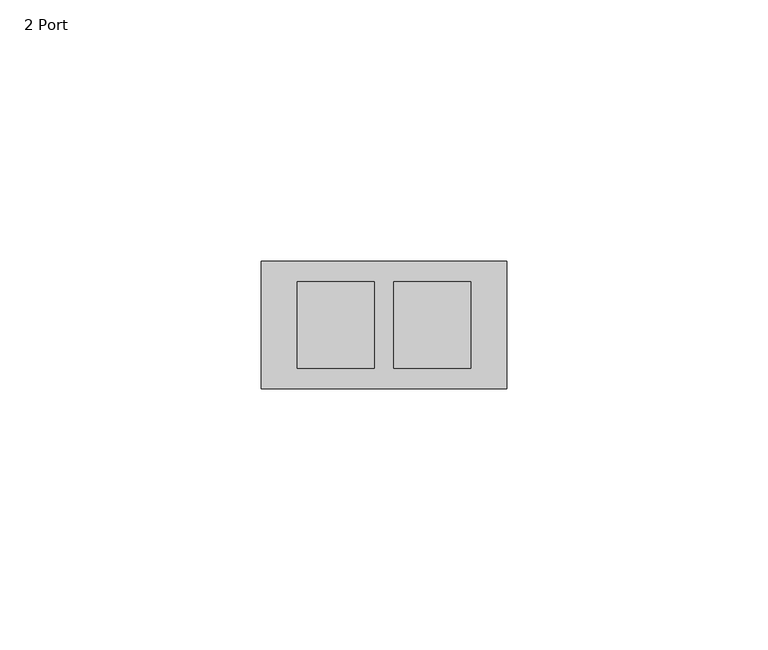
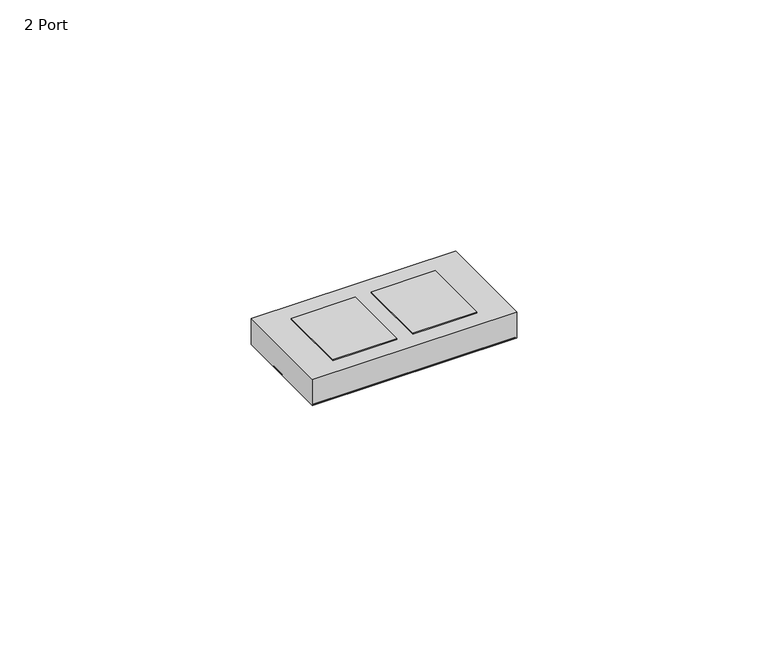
"""IFC4 building model written with IfcOpenShell, lengths in millimetres: electric appliance geometry, Data_Device-Work_Area-Leviton-MOS-Adapter-QuickPort : 2 Port."""

from ifc_helpers import new_model, si_unit, frame, origin, place, context, project, spatial, polyline, outline, extrude, source, transform, mapped, element, save


def electric_appliance_2_port_a5e45990(model_context):
    return source(origin(), model_context, "Body", "SweptSolid", [
        extrude(outline(polyline([(-24.8539, 16.4465), (-24.8539, -0.0635), (-39.5859, -0.0635), (-39.5859, 16.4465), (-24.8539, 16.4465)])), frame((0.0, 0.0, -6.096), z_axis=(0.0, 0.0, 1.0), x_axis=(1.0, 0.0, 0.0)), (0.0, 0.0, 1.0), 6.35),
        extrude(outline(polyline([(-6.4643, 16.4465), (-6.4643, -0.0635), (-21.1963, -0.0635), (-21.1963, 16.4465), (-6.4643, 16.4465)])), frame((0.0, 0.0, -6.096), z_axis=(0.0, 0.0, 1.0), x_axis=(1.0, 0.0, 0.0)), (0.0, 0.0, 1.0), 6.35),
        extrude(outline(polyline([(0.2159, 20.1295), (0.2159, -3.7465), (-46.2661, -3.7465), (-46.2661, 20.1295), (0.2159, 20.1295)])), frame((0.0, 0.0, -6.35), z_axis=(0.0, 0.0, 1.0), x_axis=(1.0, 0.0, 0.0)), (0.0, 0.0, 1.0), 0.254),
        extrude(outline(polyline([(0.4699, 20.3835), (0.4699, -4.0005), (-46.5201, -4.0005), (-46.5201, 20.3835), (0.4699, 20.3835)]), holes=[polyline([(-24.8539, 16.4465), (-39.5859, 16.4465), (-39.5859, -0.0635), (-24.8539, -0.0635), (-24.8539, 16.4465)]), polyline([(-6.4643, 16.4465), (-21.1963, 16.4465), (-21.1963, -0.0635), (-6.4643, -0.0635), (-6.4643, 16.4465)])]), frame((0.0, 0.0, -6.096), z_axis=(0.0, 0.0, 1.0), x_axis=(1.0, 0.0, 0.0)), (0.0, 0.0, 1.0), 6.35),
    ])


if __name__ == "__main__":
    model = new_model("IFC4")
    model_context = context("Model", 3, world=origin())
    ifc_project = project(units=[si_unit("LENGTHUNIT", "METRE", prefix="MILLI")], contexts=[model_context])
    site = spatial("IfcSite", under=ifc_project)
    building = spatial("IfcBuilding", under=site)
    placement = place(None, origin())
    electric_appliance_2_port_shape = electric_appliance_2_port_a5e45990(model_context)
    element("IfcElectricAppliance", 1, ObjectType="Data_Device-Work_Area-Leviton-MOS-Adapter-QuickPort : 2 Port", at=placement, inside=building, context=model_context, shape_type="MappedRepresentation", body=[
        mapped(electric_appliance_2_port_shape, transform((0.0, 0.0, 0.0), x_axis=(1.0, 0.0, 0.0), y_axis=(0.0, 1.0, 0.0), z_axis=(0.0, 0.0, 1.0))),
    ])
    save(model, "model.ifc")
